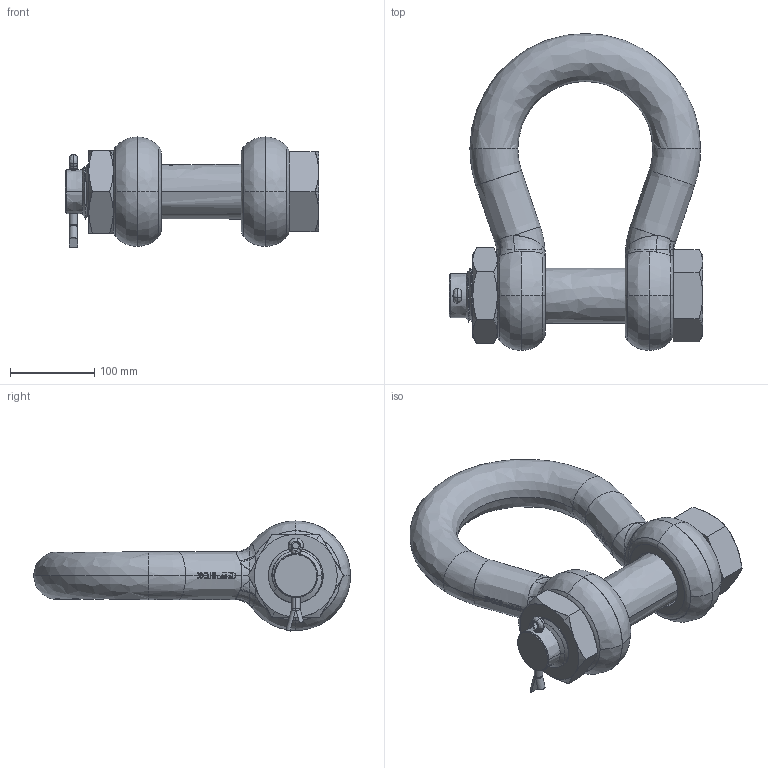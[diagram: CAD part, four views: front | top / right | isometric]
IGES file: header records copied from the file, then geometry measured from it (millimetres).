
Start section: START RECORD GO HERE.
Global section: file name: POGHMB57.igs; native system: Solidworks 2009                             ; preprocessor: Solidworks                 ; author: v.b.; organization: P4; date: 20090826.095440; units: millimetre
Bounding box: 301 x 376.5 x 130.74 mm (x, y, z)
Surface area: 313880.6 mm2 (no closed solid volume)
Topology: 0 solids, 0 shells, 866 faces, 6069 edges, 6061 vertices
Faces by surface type: bspline 352, plane 324, revolution 190
